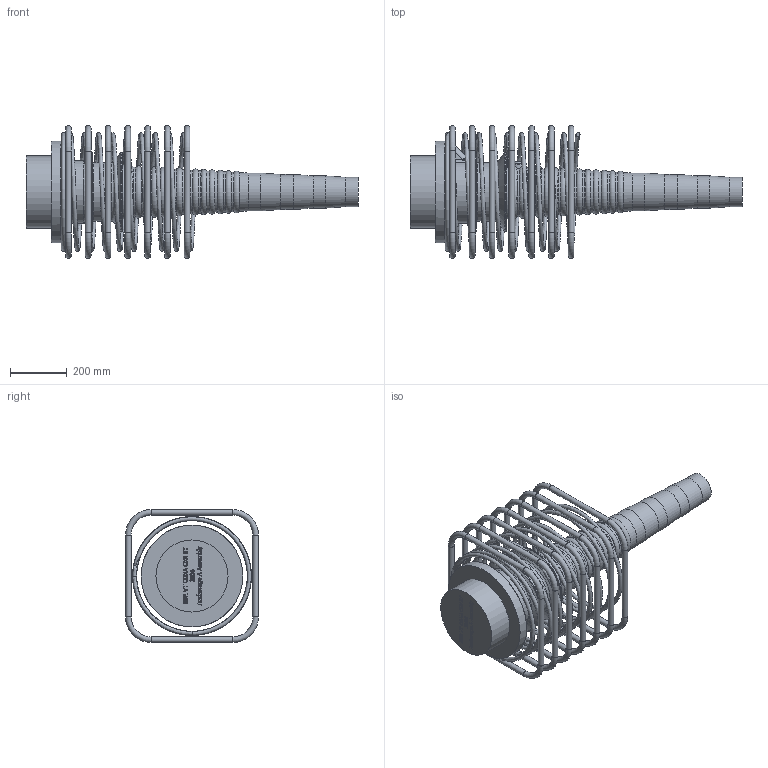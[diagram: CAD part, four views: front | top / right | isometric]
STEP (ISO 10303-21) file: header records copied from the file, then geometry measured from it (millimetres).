
FILE_DESCRIPTION(/* description */ (''),/* implementation_level */ '2;1');
FILE_NAME(/* name */ 'Z:\04 Publications\05 Give-out\BBR\6_3D_Models\BBR VT CONA CMI\BBR VT CONA CMI BT\02506\BBR VT CONA CMI BT 2506_Anchorage A Assembly_CS-34,28.stp',/* time_stamp */ '2017-05-05T10:16:11+02:00',/* author */ ('IP'),/* organization */ (''),/* preprocessor_version */ 'ST-DEVELOPER v16.1',/* originating_system */ 'Autodesk Inventor 2016',/* authorisation */ '');
FILE_SCHEMA (('AUTOMOTIVE_DESIGN { 1 0 10303 214 3 1 1 }'));
Length unit declared in the file: millimetre
Products named in the file (1): BBR VT CONA CMI BT 2506_Anchorage A Assembly_CS-34,28
Bounding box: 1174.67 x 470 x 470 mm (x, y, z)
Volume: 36172805.7 mm3; surface area: 2215069.5 mm2
Topology: 9 solids, 9 shells, 795 faces, 2053 edges, 1314 vertices
Faces by surface type: plane 321, bspline 314, torus 93, cylinder 48, cone 17, sphere 2
Full cylindrical faces by diameter (mm): 20 x28, 34 x1, 57 x1, 104 x1, 114 x1, 124 x1, 134 x1, 208 x1, 255 x1, 279 x1, 283 x1, 360 x1
Entity records: 30550 total; most frequent: CARTESIAN_POINT 13014, ORIENTED_EDGE 3808, DIRECTION 2432, EDGE_CURVE 1904, VERTEX_POINT 1306, LINE 1070, VECTOR 1070, EDGE_LOOP 990
